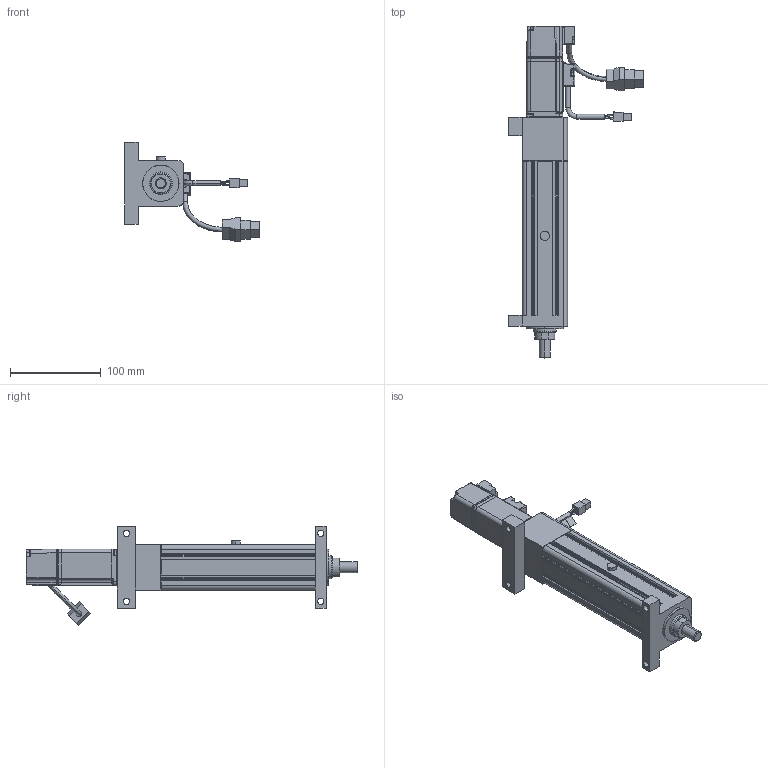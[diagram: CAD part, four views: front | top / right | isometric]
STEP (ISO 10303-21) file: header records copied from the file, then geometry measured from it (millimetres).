
FILE_DESCRIPTION (( 'STEP AP203' ), '1' );
FILE_NAME ('S1眻盄耜醱假蚾.STEP', '2024-05-27T05:05:24', ( '' ), ( '' ), 'SwSTEP 2.0', 'SolidWorks 2018', '' );
FILE_SCHEMA (( 'CONFIG_CONTROL_DESIGN' ));
Length unit declared in the file: millimetre
Products named in the file (3): S1眻盄耜醱假蚾; ECMA-CX0401ES-40框號系列機種-100W低慣量系列; S1眻盄耜醱
Assembly tree (2 placements, depth 2):
  S1眻盄耜醱假蚾
    ECMA-CX0401ES-40框號系列機種-100W低慣量系列
    S1眻盄耜醱
Bounding box: 148.63 x 365.6 x 109.14 mm (x, y, z)
Volume: 538445.3 mm3; surface area: 150821.2 mm2
Topology: 2 solids, 17 shells, 675 faces, 1653 edges, 1030 vertices
Faces by surface type: plane 319, cylinder 242, cone 50, torus 31, sphere 17, bspline 16
Entity records: 22819 total; most frequent: CARTESIAN_POINT 6829, ORIENTED_EDGE 3302, DIRECTION 3176, EDGE_CURVE 1651, AXIS2_PLACEMENT_3D 1107, VERTEX_POINT 1030, LINE 962, VECTOR 962
